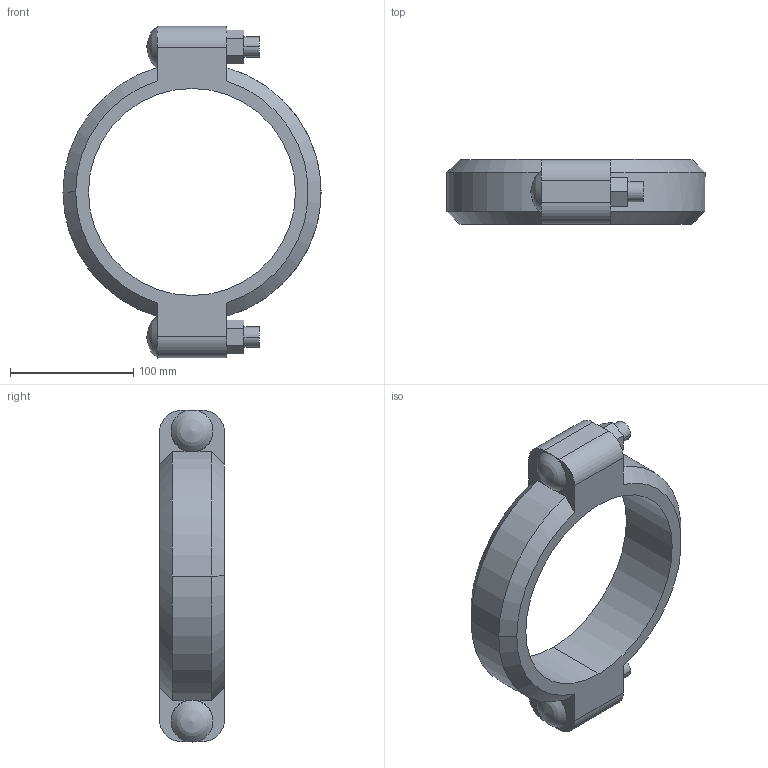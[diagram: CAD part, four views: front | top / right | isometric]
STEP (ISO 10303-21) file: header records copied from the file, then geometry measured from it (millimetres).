
FILE_DESCRIPTION (( 'STEP AP203' ), '1' );
FILE_NAME ('CPLG_06.0 (150)_07.STEP', '2014-05-07T18:48:50', ( '' ), ( '' ), 'SwSTEP 2.0', 'SolidWorks 2012', '' );
FILE_SCHEMA (( 'CONFIG_CONTROL_DESIGN' ));
Length unit declared in the file: inch
Products named in the file (1): CPLG_06.0 (150)_07
Bounding box: 209.8 x 52.58 x 269.86 mm (x, y, z)
Volume: 788093 mm3; surface area: 96476.9 mm2
Topology: 1 solids, 1 shells, 55 faces, 142 edges, 93 vertices
Faces by surface type: plane 28, cylinder 19, cone 6, bspline 2
Entity records: 1900 total; most frequent: CARTESIAN_POINT 459, DIRECTION 285, ORIENTED_EDGE 284, EDGE_CURVE 142, AXIS2_PLACEMENT_3D 103, VERTEX_POINT 93, LINE 79, VECTOR 79
